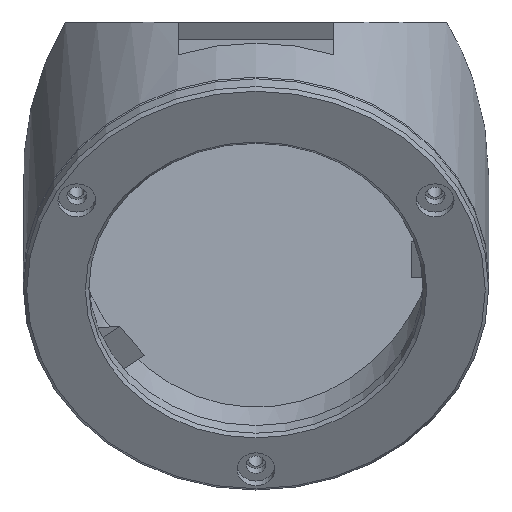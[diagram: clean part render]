
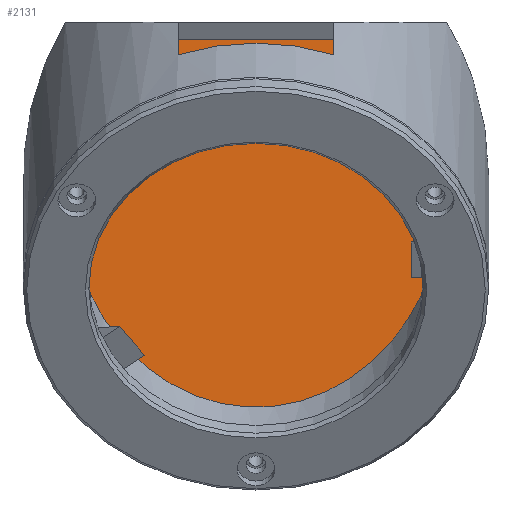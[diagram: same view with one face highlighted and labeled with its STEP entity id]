
A CAD part, top view. The second image highlights one B-rep face of the part: STEP entity #2131.
In plain terms, the highlighted planar face has unit normal (0, 0, 1).
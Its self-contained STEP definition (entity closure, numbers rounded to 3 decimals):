
#573 = CYLINDRICAL_SURFACE('',#574,22.);
#574 = AXIS2_PLACEMENT_3D('',#575,#576,#577);
#575 = CARTESIAN_POINT('',(0.,45.,-56.942));
#576 = DIRECTION('',(-0.,0.5,-0.866));
#577 = DIRECTION('',(1.,0.,0.));
#599 = PLANE('',#600);
#600 = AXIS2_PLACEMENT_3D('',#601,#602,#603);
#601 = CARTESIAN_POINT('',(-125.,28.,-125.));
#602 = DIRECTION('',(0.,1.,0.));
#603 = DIRECTION('',(0.,0.,1.));
#934 = VERTEX_POINT('',#935);
#935 = CARTESIAN_POINT('',(16.141,28.,2.4));
#963 = EDGE_CURVE('',#934,#964,#966,.T.);
#964 = VERTEX_POINT('',#965);
#965 = CARTESIAN_POINT('',(-16.141,28.,2.4));
#966 = SURFACE_CURVE('',#967,(#971,#977),.PCURVE_S1.);
#967 = LINE('',#968,#969);
#968 = CARTESIAN_POINT('',(-125.,28.,2.4));
#969 = VECTOR('',#970,1.);
#970 = DIRECTION('',(-1.,0.,0.));
#971 = PCURVE('',#599,#972);
#972 = DEFINITIONAL_REPRESENTATION('',(#973),#976);
#973 = B_SPLINE_CURVE_WITH_KNOTS('',1,(#974,#975),.UNSPECIFIED.,.F.,.F.,
  (2,2),(-147.,-103.),.PIECEWISE_BEZIER_KNOTS.);
#974 = CARTESIAN_POINT('',(127.4,147.));
#975 = CARTESIAN_POINT('',(127.4,103.));
#976 = ( GEOMETRIC_REPRESENTATION_CONTEXT(2) 
PARAMETRIC_REPRESENTATION_CONTEXT() REPRESENTATION_CONTEXT('2D SPACE',''
  ) );
#977 = PCURVE('',#978,#983);
#978 = PLANE('',#979);
#979 = AXIS2_PLACEMENT_3D('',#980,#981,#982);
#980 = CARTESIAN_POINT('',(-125.,-125.,2.4));
#981 = DIRECTION('',(0.,0.,1.));
#982 = DIRECTION('',(1.,0.,0.));
#983 = DEFINITIONAL_REPRESENTATION('',(#984),#987);
#984 = B_SPLINE_CURVE_WITH_KNOTS('',1,(#985,#986),.UNSPECIFIED.,.F.,.F.,
  (2,2),(-147.,-103.),.PIECEWISE_BEZIER_KNOTS.);
#985 = CARTESIAN_POINT('',(147.,153.));
#986 = CARTESIAN_POINT('',(103.,153.));
#987 = ( GEOMETRIC_REPRESENTATION_CONTEXT(2) 
PARAMETRIC_REPRESENTATION_CONTEXT() REPRESENTATION_CONTEXT('2D SPACE',''
  ) );
#1024 = VERTEX_POINT('',#1025);
#1025 = CARTESIAN_POINT('',(22.,10.739,2.4));
#1048 = EDGE_CURVE('',#964,#1024,#1049,.T.);
#1049 = SURFACE_CURVE('',#1050,(#1055,#1096),.PCURVE_S1.);
#1050 = ELLIPSE('',#1051,25.403,22.);
#1051 = AXIS2_PLACEMENT_3D('',#1052,#1053,#1054);
#1052 = CARTESIAN_POINT('',(0.,10.739,2.4));
#1053 = DIRECTION('',(0.,0.,1.));
#1054 = DIRECTION('',(0.,1.,-0.));
#1055 = PCURVE('',#573,#1056);
#1056 = DEFINITIONAL_REPRESENTATION('',(#1057),#1095);
#1057 = B_SPLINE_CURVE_WITH_KNOTS('',8,(#1058,#1059,#1060,#1061,#1062,
    #1063,#1064,#1065,#1066,#1067,#1068,#1069,#1070,#1071,#1072,#1073,
    #1074,#1075,#1076,#1077,#1078,#1079,#1080,#1081,#1082,#1083,#1084,
    #1085,#1086,#1087,#1088,#1089,#1090,#1091,#1092,#1093,#1094),
  .UNSPECIFIED.,.F.,.F.,(9,7,7,7,7,9),(4.712,6.283,
    7.461,8.345,9.67,10.996),
  .UNSPECIFIED.);
#1058 = CARTESIAN_POINT('',(0.,-68.523));
#1059 = CARTESIAN_POINT('',(-0.196,-66.029));
#1060 = CARTESIAN_POINT('',(-0.393,-63.535));
#1061 = CARTESIAN_POINT('',(-0.589,-61.187));
#1062 = CARTESIAN_POINT('',(-0.785,-59.133));
#1063 = CARTESIAN_POINT('',(-0.982,-57.5));
#1064 = CARTESIAN_POINT('',(-1.178,-56.381));
#1065 = CARTESIAN_POINT('',(-1.374,-55.821));
#1066 = CARTESIAN_POINT('',(-1.718,-55.821));
#1067 = CARTESIAN_POINT('',(-1.865,-56.136));
#1068 = CARTESIAN_POINT('',(-2.013,-56.765));
#1069 = CARTESIAN_POINT('',(-2.16,-57.695));
#1070 = CARTESIAN_POINT('',(-2.307,-58.896));
#1071 = CARTESIAN_POINT('',(-2.454,-60.326));
#1072 = CARTESIAN_POINT('',(-2.602,-61.934));
#1073 = CARTESIAN_POINT('',(-2.859,-64.958));
#1074 = CARTESIAN_POINT('',(-2.97,-66.322));
#1075 = CARTESIAN_POINT('',(-3.08,-67.729));
#1076 = CARTESIAN_POINT('',(-3.191,-69.155));
#1077 = CARTESIAN_POINT('',(-3.301,-70.571));
#1078 = CARTESIAN_POINT('',(-3.412,-71.952));
#1079 = CARTESIAN_POINT('',(-3.522,-73.273));
#1080 = CARTESIAN_POINT('',(-3.798,-76.366));
#1081 = CARTESIAN_POINT('',(-3.964,-78.034));
#1082 = CARTESIAN_POINT('',(-4.129,-79.437));
#1083 = CARTESIAN_POINT('',(-4.295,-80.507));
#1084 = CARTESIAN_POINT('',(-4.461,-81.197));
#1085 = CARTESIAN_POINT('',(-4.626,-81.48));
#1086 = CARTESIAN_POINT('',(-4.792,-81.355));
#1087 = CARTESIAN_POINT('',(-5.123,-80.332));
#1088 = CARTESIAN_POINT('',(-5.289,-79.435));
#1089 = CARTESIAN_POINT('',(-5.455,-78.172));
#1090 = CARTESIAN_POINT('',(-5.621,-76.588));
#1091 = CARTESIAN_POINT('',(-5.786,-74.747));
#1092 = CARTESIAN_POINT('',(-5.952,-72.731));
#1093 = CARTESIAN_POINT('',(-6.118,-70.627));
#1094 = CARTESIAN_POINT('',(-6.283,-68.523));
#1095 = ( GEOMETRIC_REPRESENTATION_CONTEXT(2) 
PARAMETRIC_REPRESENTATION_CONTEXT() REPRESENTATION_CONTEXT('2D SPACE',''
  ) );
#1096 = PCURVE('',#978,#1097);
#1097 = DEFINITIONAL_REPRESENTATION('',(#1098),#1102);
#1098 = ELLIPSE('',#1099,25.403,22.);
#1099 = AXIS2_PLACEMENT_2D('',#1100,#1101);
#1100 = CARTESIAN_POINT('',(125.,135.739));
#1101 = DIRECTION('',(0.,1.));
#1102 = ( GEOMETRIC_REPRESENTATION_CONTEXT(2) 
PARAMETRIC_REPRESENTATION_CONTEXT() REPRESENTATION_CONTEXT('2D SPACE',''
  ) );
#1321 = EDGE_CURVE('',#1024,#934,#1322,.T.);
#1322 = SURFACE_CURVE('',#1323,(#1328,#1369),.PCURVE_S1.);
#1323 = ELLIPSE('',#1324,25.403,22.);
#1324 = AXIS2_PLACEMENT_3D('',#1325,#1326,#1327);
#1325 = CARTESIAN_POINT('',(0.,10.739,2.4));
#1326 = DIRECTION('',(0.,0.,1.));
#1327 = DIRECTION('',(0.,1.,-0.));
#1328 = PCURVE('',#573,#1329);
#1329 = DEFINITIONAL_REPRESENTATION('',(#1330),#1368);
#1330 = B_SPLINE_CURVE_WITH_KNOTS('',8,(#1331,#1332,#1333,#1334,#1335,
    #1336,#1337,#1338,#1339,#1340,#1341,#1342,#1343,#1344,#1345,#1346,
    #1347,#1348,#1349,#1350,#1351,#1352,#1353,#1354,#1355,#1356,#1357,
    #1358,#1359,#1360,#1361,#1362,#1363,#1364,#1365,#1366,#1367),
  .UNSPECIFIED.,.F.,.F.,(9,7,7,7,7,9),(4.712,6.283,
    7.461,8.345,9.67,10.996),
  .UNSPECIFIED.);
#1331 = CARTESIAN_POINT('',(0.,-68.523));
#1332 = CARTESIAN_POINT('',(-0.196,-66.029));
#1333 = CARTESIAN_POINT('',(-0.393,-63.535));
#1334 = CARTESIAN_POINT('',(-0.589,-61.187));
#1335 = CARTESIAN_POINT('',(-0.785,-59.133));
#1336 = CARTESIAN_POINT('',(-0.982,-57.5));
#1337 = CARTESIAN_POINT('',(-1.178,-56.381));
#1338 = CARTESIAN_POINT('',(-1.374,-55.821));
#1339 = CARTESIAN_POINT('',(-1.718,-55.821));
#1340 = CARTESIAN_POINT('',(-1.865,-56.136));
#1341 = CARTESIAN_POINT('',(-2.013,-56.765));
#1342 = CARTESIAN_POINT('',(-2.16,-57.695));
#1343 = CARTESIAN_POINT('',(-2.307,-58.896));
#1344 = CARTESIAN_POINT('',(-2.454,-60.326));
#1345 = CARTESIAN_POINT('',(-2.602,-61.934));
#1346 = CARTESIAN_POINT('',(-2.859,-64.958));
#1347 = CARTESIAN_POINT('',(-2.97,-66.322));
#1348 = CARTESIAN_POINT('',(-3.08,-67.729));
#1349 = CARTESIAN_POINT('',(-3.191,-69.155));
#1350 = CARTESIAN_POINT('',(-3.301,-70.571));
#1351 = CARTESIAN_POINT('',(-3.412,-71.952));
#1352 = CARTESIAN_POINT('',(-3.522,-73.273));
#1353 = CARTESIAN_POINT('',(-3.798,-76.366));
#1354 = CARTESIAN_POINT('',(-3.964,-78.034));
#1355 = CARTESIAN_POINT('',(-4.129,-79.437));
#1356 = CARTESIAN_POINT('',(-4.295,-80.507));
#1357 = CARTESIAN_POINT('',(-4.461,-81.197));
#1358 = CARTESIAN_POINT('',(-4.626,-81.48));
#1359 = CARTESIAN_POINT('',(-4.792,-81.355));
#1360 = CARTESIAN_POINT('',(-5.123,-80.332));
#1361 = CARTESIAN_POINT('',(-5.289,-79.435));
#1362 = CARTESIAN_POINT('',(-5.455,-78.172));
#1363 = CARTESIAN_POINT('',(-5.621,-76.588));
#1364 = CARTESIAN_POINT('',(-5.786,-74.747));
#1365 = CARTESIAN_POINT('',(-5.952,-72.731));
#1366 = CARTESIAN_POINT('',(-6.118,-70.627));
#1367 = CARTESIAN_POINT('',(-6.283,-68.523));
#1368 = ( GEOMETRIC_REPRESENTATION_CONTEXT(2) 
PARAMETRIC_REPRESENTATION_CONTEXT() REPRESENTATION_CONTEXT('2D SPACE',''
  ) );
#1369 = PCURVE('',#978,#1370);
#1370 = DEFINITIONAL_REPRESENTATION('',(#1371),#1375);
#1371 = ELLIPSE('',#1372,25.403,22.);
#1372 = AXIS2_PLACEMENT_2D('',#1373,#1374);
#1373 = CARTESIAN_POINT('',(125.,135.739));
#1374 = DIRECTION('',(0.,1.));
#1375 = ( GEOMETRIC_REPRESENTATION_CONTEXT(2) 
PARAMETRIC_REPRESENTATION_CONTEXT() REPRESENTATION_CONTEXT('2D SPACE',''
  ) );
#2131 = ADVANCED_FACE('',(#2132),#978,.T.);
#2132 = FACE_BOUND('',#2133,.T.);
#2133 = EDGE_LOOP('',(#2134,#2135,#2136));
#2134 = ORIENTED_EDGE('',*,*,#1048,.T.);
#2135 = ORIENTED_EDGE('',*,*,#1321,.T.);
#2136 = ORIENTED_EDGE('',*,*,#963,.T.);
